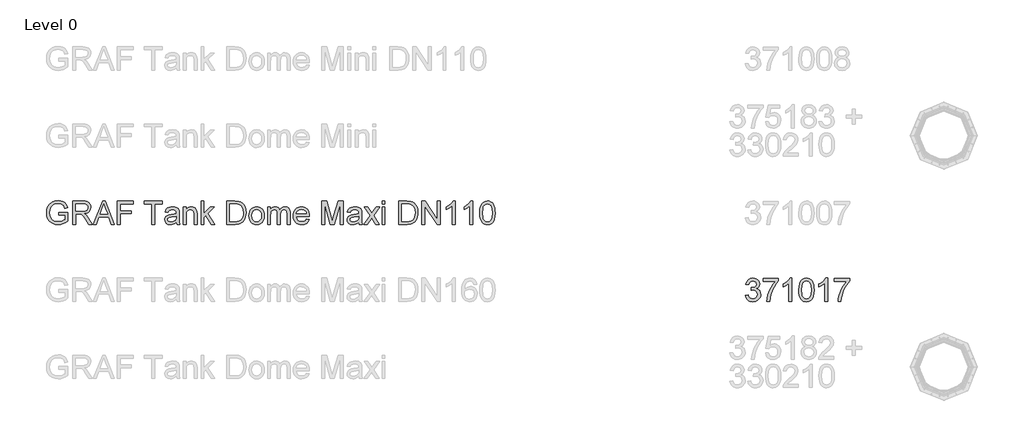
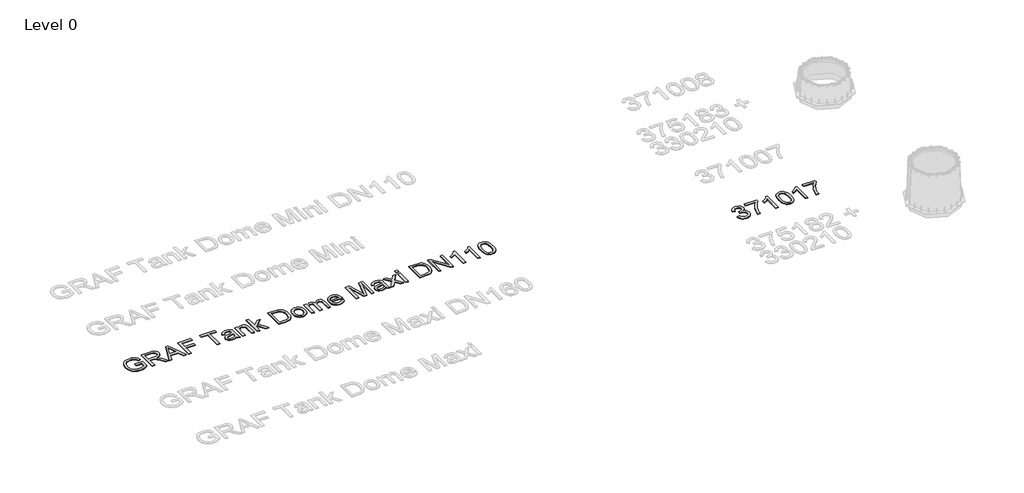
# One storey, part 3 of 19: 2 proxies.
"""IFC4 building model written with IfcOpenShell, lengths in millimetres."""

from ifc_helpers import new_model, si_unit, origin, origin_with_axes, place, context, project, spatial, polyline, outline, extrude, element, save

model = new_model("IFC4")

# Units and contexts
model_context = context("Model", 3, world=origin())
ifc_project = project(units=[si_unit("LENGTHUNIT", "METRE", prefix="MILLI")], contexts=[model_context])

# Site, building, storey
site = spatial("IfcSite", under=ifc_project)
building = spatial("IfcBuilding", under=site)
storey = spatial("IfcBuildingStorey", under=building, Name="Level 0", Elevation=0.0)

# Proxies
placement = place(None, origin())
element("IfcBuildingElementProxy", 1, Name="300mm Arial", ObjectType="300mm Arial", at=placement, inside=storey, context=model_context, shape_type="SweptSolid", body=[
    extrude(outline(polyline([(-15240.9940387, -16082.9794047), (-15240.9940387, -16045.3082884), (-15118.5629107, -16045.3082884), (-15118.5629107, -16157.9537553), (-15148.3153671, -16178.6471176), (-15179.0059225, -16193.4911561), (-15210.5610007, -16202.4306885), (-15242.9070251, -16205.4105327), (-15285.1674693, -16200.674052), (-15323.3628175, -16186.46461), (-15355.0926395, -16163.2788472), (-15377.9565055, -16131.6134045), (-15391.7796715, -16093.6295885), (-15396.3873935, -16051.4887059), (-15391.7980656, -16009.0443207), (-15378.0300819, -15969.5613856), (-15355.6536596, -15936.442809), (-15325.2390156, -15913.0914993), (-15288.1932987, -15899.2407422), (-15245.9236575, -15894.6238232), (-15214.8928112, -15897.3001647), (-15186.9889618, -15905.3291892), (-15163.4904994, -15918.1314827), (-15145.6758138, -15935.1276309), (-15132.4964413, -15957.1361712), (-15122.9039183, -15984.9756412), (-15157.6319786, -15994.7613023), (-15165.3850917, -15974.9048716), (-15174.8120678, -15959.9228773), (-15187.2832674, -15948.6289001), (-15204.169051, -15939.8365204), (-15224.3013932, -15934.1803347), (-15246.5122687, -15932.2949395), (-15272.5123287, -15934.3274875), (-15294.7415982, -15940.4251316), (-15313.1173039, -15949.8245166), (-15327.5566722, -15961.7622873), (-15346.9440533, -15990.7881767), (-15355.7732212, -16019.225455), (-15358.7162772, -16049.9436015), (-15355.175413, -16085.9684459), (-15344.5528204, -16115.6105377), (-15327.1703961, -16138.6583447), (-15303.3500369, -16154.9003348), (-15275.4737787, -16164.529646), (-15245.9236575, -16167.7394164), (-15219.831627, -16165.3205923), (-15194.3833899, -16158.0641199), (-15172.2828791, -16148.0669267), (-15156.234027, -16137.42594), (-15156.234027, -16082.9794047), (-15240.9940387, -16082.9794047)])), origin_with_axes(), (0.0, 0.0, 1.0), 10.0),
    extrude(outline(polyline([(-15057.3473467, -16200.7016432), (-15057.3473467, -15899.3327127), (-14927.4850024, -15899.3327127), (-14892.5821982, -15901.3652607), (-14867.1891434, -15907.4629048), (-14848.6294968, -15918.7200939), (-14834.2269167, -15936.2312768), (-14824.9838815, -15957.9455116), (-14821.9028698, -15981.811856), (-14827.0072325, -16011.4999331), (-14842.3203206, -16036.1112385), (-14853.9200997, -16046.1406214), (-14868.3019865, -16054.1558504), (-14905.4120827, -16064.1438466), (-14884.0013506, -16080.257078), (-14853.467145, -16119.0318402), (-14803.2144645, -16200.7016432), (-14846.9924219, -16200.7016432), (-14886.2086426, -16138.2352804), (-14914.5355562, -16096.8853441), (-14934.4379722, -16077.3508102), (-14952.3538253, -16070.1771113), (-14974.2060158, -16068.8527361), (-15019.6762304, -16068.8527361), (-15019.6762304, -16200.7016432), (-15057.3473467, -16200.7016432)]), holes=[polyline([(-15019.6762304, -16031.1816198), (-14935.3576771, -16031.1816198), (-14911.1418448, -16029.8480476), (-14892.3522719, -16025.8473309), (-14878.2072092, -16018.9127553), (-14867.9249074, -16008.7776063), (-14861.6617165, -15996.5179388), (-14859.5739861, -15983.2098076), (-14863.5563087, -15964.834102), (-14875.5032765, -15950.0268517), (-14896.058683, -15940.2595847), (-14925.8663217, -15937.003829), (-15019.6762304, -15937.003829), (-15019.6762304, -16031.1816198)])]), origin_with_axes(), (0.0, 0.0, 1.0), 10.0),
    extrude(outline(polyline([(-14791.0743586, -16200.7016432), (-14670.7769462, -15899.3327127), (-14638.6976362, -15899.3327127), (-14518.4002238, -16200.7016432), (-14558.2050557, -16200.7016432), (-14592.7123868, -16106.5238524), (-14716.835772, -16106.5238524), (-14751.2695268, -16200.7016432), (-14791.0743586, -16200.7016432)]), holes=[polyline([(-14703.003409, -16068.8527361), (-14606.4711735, -16068.8527361), (-14633.6208647, -15994.7613023), (-14654.7372912, -15937.003829), (-14673.499273, -15988.2865792), (-14703.003409, -16068.8527361)])]), origin_with_axes(), (0.0, 0.0, 1.0), 10.0),
    extrude(outline(polyline([(-14478.1539335, -16200.7016432), (-14478.1539335, -15899.3327127), (-14275.6716834, -15899.3327127), (-14275.6716834, -15937.003829), (-14440.4828172, -15937.003829), (-14440.4828172, -16026.4727303), (-14299.2161311, -16026.4727303), (-14299.2161311, -16064.1438466), (-14440.4828172, -16064.1438466), (-14440.4828172, -16200.7016432), (-14478.1539335, -16200.7016432)])), origin_with_axes(), (0.0, 0.0, 1.0), 10.0),
    extrude(outline(polyline([(-14030.8094274, -16200.7016432), (-14030.8094274, -15937.003829), (-14129.6961077, -15937.003829), (-14129.6961077, -15899.3327127), (-13894.2516308, -15899.3327127), (-13894.2516308, -15937.003829), (-13993.1383111, -15937.003829), (-13993.1383111, -16200.7016432), (-14030.8094274, -16200.7016432)])), origin_with_axes(), (0.0, 0.0, 1.0), 10.0),
    extrude(outline(polyline([(-13715.3138283, -16172.4483059), (-13733.312455, -16187.8809556), (-13751.8445105, -16197.9793164), (-13771.3330592, -16203.5527286), (-13792.2011653, -16205.4105327), (-13823.6826671, -16200.9407665), (-13846.905218, -16187.5314677), (-13861.2250247, -16167.1691993), (-13865.9982936, -16141.8405239), (-13864.1956718, -16126.2239332), (-13858.7878065, -16112.0420823), (-13850.4460822, -16099.9019765), (-13839.8418837, -16090.410621), (-13813.4647447, -16078.049786), (-13780.8703999, -16072.3844033), (-13742.353155, -16066.4247149), (-13715.5345575, -16059.434957), (-13715.3138283, -16051.0472475), (-13717.9073964, -16034.2350404), (-13725.6881006, -16023.2353687), (-13743.088919, -16015.0683884), (-13767.3323425, -16012.3460616), (-13789.7731442, -16014.1578805), (-13805.4449172, -16019.5933369), (-13816.1318891, -16029.6457125), (-13823.6182877, -16045.3082884), (-13861.289404, -16040.5993989), (-13854.7503016, -16019.9980071), (-13844.9922316, -16003.8111994), (-13831.1046863, -15991.4319702), (-13812.1771577, -15982.2533144), (-13789.0281831, -15976.5695376), (-13762.4763001, -15974.6749453), (-13737.009669, -15976.3488084), (-13716.8221445, -15981.3703976), (-13701.601027, -15988.9211756), (-13691.0336167, -15998.1826048), (-13684.0254646, -16009.6329319), (-13679.482122, -16023.7504035), (-13677.642712, -16056.7126303), (-13677.642712, -16103.5807964), (-13675.7297257, -16169.0270034), (-13668.224933, -16200.7016432), (-13705.8960493, -16200.7016432), (-13715.3138283, -16172.4483059)]), holes=[polyline([(-13715.3138283, -16097.1060733), (-13776.0879339, -16108.657568), (-13808.4983377, -16114.7644091), (-13823.1768293, -16124.697223), (-13828.3271773, -16139.1917736), (-13825.522077, -16150.3937803), (-13817.1067764, -16159.5724361), (-13803.2652163, -16165.6976713), (-13784.1813378, -16167.7394164), (-13763.9478281, -16165.4861392), (-13746.0687631, -16158.7263075), (-13731.5742125, -16148.7659025), (-13721.4942459, -16136.9109052), (-13717.0244796, -16124.697223), (-13715.5345575, -16107.7746512), (-13715.3138283, -16097.1060733)])]), origin_with_axes(), (0.0, 0.0, 1.0), 10.0),
    extrude(outline(polyline([(-13625.8449271, -16200.7016432), (-13625.8449271, -15979.3838349), (-13588.1738108, -15979.3838349), (-13588.1738108, -16010.2859225), (-13575.0864088, -15994.70612), (-13559.3686506, -15983.5776896), (-13541.0205361, -15976.9006314), (-13520.0420653, -15974.6749453), (-13501.4732216, -15976.4683701), (-13484.4678764, -15981.8486442), (-13470.2860255, -15990.1443832), (-13460.1876647, -16000.6842024), (-13448.8936874, -16028.3857166), (-13446.9071247, -16064.8060342), (-13446.9071247, -16200.7016432), (-13484.578241, -16200.7016432), (-13484.578241, -16069.8828057), (-13488.9192485, -16036.5526969), (-13494.9249221, -16026.6290801), (-13504.2599277, -16018.9311494), (-13516.2252896, -16013.9923336), (-13530.122032, -16012.3460616), (-13552.1857546, -16016.0432757), (-13570.9937216, -16027.1349178), (-13578.5100106, -16036.1894135), (-13583.8787885, -16048.5640441), (-13588.1738108, -16083.2737103), (-13588.1738108, -16200.7016432), (-13625.8449271, -16200.7016432)])), origin_with_axes(), (0.0, 0.0, 1.0), 10.0),
    extrude(outline(polyline([(-13395.1093397, -16200.7016432), (-13395.1093397, -15899.3327127), (-13357.4382234, -15899.3327127), (-13357.4382234, -16061.274367), (-13272.9725173, -15979.3838349), (-13220.8804268, -15979.3838349), (-13306.3762025, -16062.3044366), (-13216.1715373, -16200.7016432), (-13260.1702239, -16200.7016432), (-13333.3787409, -16088.4976346), (-13357.4382234, -16111.8213531), (-13357.4382234, -16200.7016432), (-13395.1093397, -16200.7016432)])), origin_with_axes(), (0.0, 0.0, 1.0), 10.0),
    extrude(outline(polyline([(-13060.7781825, -16200.7016432), (-13060.7781825, -15899.3327127), (-12956.8147307, -15899.3327127), (-12903.030383, -15903.6737203), (-12879.0076887, -15912.0430357), (-12858.7373908, -15925.2316052), (-12837.8968757, -15948.1874417), (-12823.0528372, -15976.7350845), (-12814.1684871, -16010.3227107), (-12811.207037, -16048.3984972), (-12813.2119939, -16080.7445216), (-12819.2268645, -16109.209391), (-12828.3871262, -16133.4436174), (-12839.8282562, -16153.097713), (-12852.9984316, -16168.6131361), (-12867.3458295, -16180.4313452), (-12883.8177458, -16189.1961338), (-12903.3614768, -16195.5512952), (-12951.8115355, -16200.7016432), (-13060.7781825, -16200.7016432)]), holes=[polyline([(-13023.1070662, -16163.0305269), (-12956.4468487, -16163.0305269), (-12928.8740931, -16161.6693635), (-12907.9600017, -16157.5858733), (-12892.1778641, -16151.0191797), (-12880.0009701, -16142.2084059), (-12866.9135681, -16125.9020365), (-12857.0819218, -16104.794807), (-12850.9290954, -16078.794747), (-12848.8781533, -16047.809886), (-12852.8972641, -16006.7542553), (-12864.9545965, -15976.4407789), (-12882.7692821, -15955.618658), (-12904.0604526, -15943.0370938), (-12925.7287021, -15938.5121452), (-12957.4769183, -15937.003829), (-13023.1070662, -15937.003829), (-13023.1070662, -16163.0305269)])]), origin_with_axes(), (0.0, 0.0, 1.0), 10.0),
    extrude(outline(polyline([(-12773.5359207, -16090.042739), (-12771.4987741, -16061.3801331), (-12765.3873345, -16036.6814556), (-12755.2016018, -16015.9467067), (-12740.9415759, -15999.1758862), (-12726.5849811, -15988.4567246), (-12710.7384641, -15980.8001806), (-12693.4020251, -15976.2062541), (-12674.575664, -15974.6749453), (-12653.7926305, -15976.5396472), (-12635.0007584, -15982.1337528), (-12618.2000475, -15991.4572621), (-12603.3904979, -16004.5101751), (-12591.3032751, -16020.8510335), (-12582.6695445, -16040.0383788), (-12577.4893062, -16062.0722111), (-12575.7625601, -16086.9525303), (-12578.8159806, -16125.0099227), (-12587.9762423, -16153.9806298), (-12602.9766307, -16175.6764705), (-12623.5504313, -16191.9092635), (-12647.9869928, -16202.0352154), (-12674.575664, -16205.4105327), (-12695.6622001, -16203.5527286), (-12714.6288162, -16197.9793164), (-12731.4755123, -16188.690296), (-12746.2022884, -16175.6856675), (-12758.1607526, -16159.18616), (-12766.7025126, -16139.4125028), (-12771.8275687, -16116.3646958), (-12773.5359207, -16090.042739)]), holes=[polyline([(-12735.8648044, -16089.9691626), (-12731.5054027, -16124.0626265), (-12718.4271978, -16148.3520353), (-12698.7455111, -16162.8925711), (-12674.575664, -16167.7394164), (-12650.5161815, -16162.86498), (-12630.871283, -16148.2416707), (-12617.793078, -16123.6303652), (-12613.4336764, -16088.7919402), (-12617.8206692, -16055.6917577), (-12630.9816476, -16031.7334428), (-12650.6541372, -16017.1929069), (-12674.575664, -16012.3460616), (-12698.7455111, -16017.1745128), (-12718.4271978, -16031.6598664), (-12731.5054027, -16055.8940928), (-12735.8648044, -16089.9691626)])]), origin_with_axes(), (0.0, 0.0, 1.0), 10.0),
    extrude(outline(polyline([(-12533.3825542, -16200.7016432), (-12533.3825542, -15979.3838349), (-12495.7114379, -15979.3838349), (-12495.7114379, -16015.8041524), (-12484.3806725, -15999.0747187), (-12469.8125455, -15985.9689226), (-12452.5036976, -15977.4984396), (-12432.9507696, -15974.6749453), (-12411.9998899, -15977.5536219), (-12395.2060768, -15986.1896518), (-12382.6613008, -16000.0128178), (-12374.4575323, -16018.4529028), (-12360.7263368, -15999.3000464), (-12345.0637609, -15985.6194347), (-12327.4698045, -15977.4110677), (-12307.9444676, -15974.6749453), (-12279.626751, -15979.227485), (-12258.6850684, -15992.8851041), (-12245.7448193, -16016.0156845), (-12241.4314029, -16048.9871084), (-12241.4314029, -16200.7016432), (-12279.1025192, -16200.7016432), (-12279.1025192, -16065.1739161), (-12282.5973981, -16033.7200056), (-12287.5086228, -16025.0471875), (-12295.2525388, -16018.2321736), (-12305.2129438, -16013.8175896), (-12316.7736355, -16012.3460616), (-12337.1818892, -16016.1168521), (-12353.8193524, -16027.4292234), (-12364.8834034, -16047.0557279), (-12368.5714204, -16075.7689176), (-12368.5714204, -16200.7016432), (-12406.2425367, -16200.7016432), (-12406.2425367, -16060.9800614), (-12408.4222375, -16039.6796939), (-12414.96134, -16024.4861675), (-12426.4668494, -16015.3810881), (-12443.545771, -16012.3460616), (-12458.0587157, -16014.3694126), (-12471.4312262, -16020.4394655), (-12482.4676861, -16030.4090676), (-12489.9724788, -16044.131066), (-12494.2766981, -16063.1689593), (-12495.7114379, -16089.0862458), (-12495.7114379, -16200.7016432), (-12533.3825542, -16200.7016432)])), origin_with_axes(), (0.0, 0.0, 1.0), 10.0),
    extrude(outline(polyline([(-12029.972832, -16134.7771896), (-11993.0374797, -16139.4860792), (-12006.3456109, -16167.3163521), (-12027.5815991, -16188.1200789), (-12056.2671976, -16201.0879193), (-12091.92416, -16205.4105327), (-12115.2984623, -16203.5458308), (-12136.1251817, -16197.9517253), (-12154.4043184, -16188.6282159), (-12170.1358722, -16175.5753029), (-12182.7864143, -16159.1562696), (-12191.8225158, -16139.7343995), (-12197.2441767, -16117.3096927), (-12199.051397, -16091.882149), (-12197.2257826, -16065.5923819), (-12191.7489394, -16042.4204147), (-12182.6208674, -16022.3662475), (-12169.8415666, -16005.4298801), (-12154.1513995, -15991.9745962), (-12136.2907286, -15982.363679), (-12116.259554, -15976.5971288), (-12094.0578756, -15974.6749453), (-12072.5712678, -15976.5925302), (-12053.1402007, -15982.3452849), (-12035.7646742, -15991.9332094), (-12020.4446884, -16005.3563037), (-12007.9389998, -16022.2558829), (-11999.0063651, -16042.2732619), (-11993.6467843, -16065.4084409), (-11991.8602573, -16091.6614198), (-11992.0809865, -16101.8149629), (-12161.3802807, -16101.8149629), (-12154.8595723, -16130.0131178), (-12139.7120312, -16150.7432682), (-12117.8506436, -16163.4903794), (-12091.188396, -16167.7394164), (-12071.1388273, -16165.7712477), (-12054.2530437, -16159.8667417), (-12040.5310453, -16149.6580163), (-12029.972832, -16134.7771896)]), holes=[polyline([(-12161.3802807, -16064.1438466), (-12029.5313736, -16064.1438466), (-12034.6265393, -16044.2414306), (-12044.6145354, -16030.0043974), (-12066.5770906, -16016.7606456), (-12094.2050284, -16012.3460616), (-12119.5980831, -16015.8685317), (-12140.594948, -16026.4359421), (-12155.1906661, -16042.9078584), (-12161.3802807, -16064.1438466)])]), origin_with_axes(), (0.0, 0.0, 1.0), 10.0),
    extrude(outline(polyline([(-11831.758013, -16200.7016432), (-11831.758013, -15899.3327127), (-11766.9372055, -15899.3327127), (-11705.2801831, -16111.7477767), (-11692.8457717, -16156.1143454), (-11679.3812906, -16108.0689568), (-11618.7543378, -15899.3327127), (-11553.9335303, -15899.3327127), (-11553.9335303, -16200.7016432), (-11591.6046466, -16200.7016432), (-11591.6046466, -15937.003829), (-11667.3147612, -16200.7016432), (-11718.3767821, -16200.7016432), (-11794.0868967, -15937.003829), (-11794.0868967, -16200.7016432), (-11831.758013, -16200.7016432)])), origin_with_axes(), (0.0, 0.0, 1.0), 10.0),
    extrude(outline(polyline([(-11351.4512801, -16172.4483059), (-11369.4499067, -16187.8809556), (-11387.9819623, -16197.9793164), (-11407.4705109, -16203.5527286), (-11428.3386171, -16205.4105327), (-11459.8201189, -16200.9407665), (-11483.0426698, -16187.5314677), (-11497.3624765, -16167.1691993), (-11502.1357454, -16141.8405239), (-11500.3331236, -16126.2239332), (-11494.9252582, -16112.0420823), (-11486.583534, -16099.9019765), (-11475.9793355, -16090.410621), (-11449.6021964, -16078.049786), (-11417.0078517, -16072.3844033), (-11378.4906068, -16066.4247149), (-11351.6720093, -16059.434957), (-11351.4512801, -16051.0472475), (-11354.0448482, -16034.2350404), (-11361.8255524, -16023.2353687), (-11379.2263708, -16015.0683884), (-11403.4697942, -16012.3460616), (-11425.910596, -16014.1578805), (-11441.5823689, -16019.5933369), (-11452.2693409, -16029.6457125), (-11459.7557395, -16045.3082884), (-11497.4268558, -16040.5993989), (-11490.8877534, -16019.9980071), (-11481.1296834, -16003.8111994), (-11467.2421381, -15991.4319702), (-11448.3146095, -15982.2533144), (-11425.1656349, -15976.5695376), (-11398.6137519, -15974.6749453), (-11373.1471208, -15976.3488084), (-11352.9595963, -15981.3703976), (-11337.7384788, -15988.9211756), (-11327.1710684, -15998.1826048), (-11320.1629164, -16009.6329319), (-11315.6195738, -16023.7504035), (-11313.7801638, -16056.7126303), (-11313.7801638, -16103.5807964), (-11311.8671774, -16169.0270034), (-11304.3623847, -16200.7016432), (-11342.0335011, -16200.7016432), (-11351.4512801, -16172.4483059)]), holes=[polyline([(-11351.4512801, -16097.1060733), (-11412.2253857, -16108.657568), (-11444.6357895, -16114.7644091), (-11459.3142811, -16124.697223), (-11464.464629, -16139.1917736), (-11461.6595288, -16150.3937803), (-11453.2442282, -16159.5724361), (-11439.4026681, -16165.6976713), (-11420.3187896, -16167.7394164), (-11400.0852799, -16165.4861392), (-11382.2062149, -16158.7263075), (-11367.7116643, -16148.7659025), (-11357.6316976, -16136.9109052), (-11353.1619314, -16124.697223), (-11351.6720093, -16107.7746512), (-11351.4512801, -16097.1060733)])]), origin_with_axes(), (0.0, 0.0, 1.0), 10.0),
    extrude(outline(polyline([(-11285.5268266, -16200.7016432), (-11205.0342461, -16089.4541278), (-11280.8179371, -15979.3838349), (-11235.4948753, -15979.3838349), (-11198.9274049, -16032.3588422), (-11181.8576804, -16057.3748179), (-11167.0688241, -16036.9205789), (-11125.4245823, -15979.3838349), (-11080.1015205, -15979.3838349), (-11159.7111842, -16089.4541278), (-11083.0445764, -16200.7016432), (-11128.3676383, -16200.7016432), (-11174.5000405, -16133.8206964), (-11182.9613263, -16121.6070142), (-11240.2037648, -16200.7016432), (-11285.5268266, -16200.7016432)])), origin_with_axes(), (0.0, 0.0, 1.0), 10.0),
    extrude(outline(polyline([(-11050.0823497, -15937.003829), (-11050.0823497, -15899.3327127), (-11012.4112334, -15899.3327127), (-11012.4112334, -15937.003829), (-11050.0823497, -15937.003829)])), origin_with_axes(), (0.0, 0.0, 1.0), 10.0),
    extrude(outline(polyline([(-11050.0823497, -16200.7016432), (-11050.0823497, -15979.3838349), (-11012.4112334, -15979.3838349), (-11012.4112334, -16200.7016432), (-11050.0823497, -16200.7016432)])), origin_with_axes(), (0.0, 0.0, 1.0), 10.0),
    extrude(outline(polyline([(-10833.4734309, -16200.7016432), (-10833.4734309, -15899.3327127), (-10729.5099791, -15899.3327127), (-10675.7256314, -15903.6737203), (-10651.7029371, -15912.0430357), (-10631.4326392, -15925.2316052), (-10610.5921241, -15948.1874417), (-10595.7480856, -15976.7350845), (-10586.8637355, -16010.3227107), (-10583.9022854, -16048.3984972), (-10585.9072423, -16080.7445216), (-10591.9221129, -16109.209391), (-10601.0823746, -16133.4436174), (-10612.5235046, -16153.097713), (-10625.69368, -16168.6131361), (-10640.0410779, -16180.4313452), (-10656.5129942, -16189.1961338), (-10676.0567252, -16195.5512952), (-10724.506784, -16200.7016432), (-10833.4734309, -16200.7016432)]), holes=[polyline([(-10795.8023146, -16163.0305269), (-10729.1420971, -16163.0305269), (-10701.5693416, -16161.6693635), (-10680.6552501, -16157.5858733), (-10664.8731125, -16151.0191797), (-10652.6962185, -16142.2084059), (-10639.6088165, -16125.9020365), (-10629.7771702, -16104.794807), (-10623.6243438, -16078.794747), (-10621.5734017, -16047.809886), (-10625.5925125, -16006.7542553), (-10637.6498449, -15976.4407789), (-10655.4645305, -15955.618658), (-10676.755701, -15943.0370938), (-10698.4239505, -15938.5121452), (-10730.1721667, -15937.003829), (-10795.8023146, -15937.003829), (-10795.8023146, -16163.0305269)])]), origin_with_axes(), (0.0, 0.0, 1.0), 10.0),
    extrude(outline(polyline([(-10532.1045005, -16200.7016432), (-10532.1045005, -15899.3327127), (-10491.7846338, -15899.3327127), (-10334.3311399, -16138.0881276), (-10334.3311399, -15899.3327127), (-10296.6600236, -15899.3327127), (-10296.6600236, -16200.7016432), (-10336.9798902, -16200.7016432), (-10494.4333842, -15961.8726519), (-10494.4333842, -16200.7016432), (-10532.1045005, -16200.7016432)])), origin_with_axes(), (0.0, 0.0, 1.0), 10.0),
    extrude(outline(polyline([(-10103.5955525, -16200.7016432), (-10141.2666688, -16200.7016432), (-10141.2666688, -15965.8457775), (-10176.9512223, -15991.2664233), (-10216.6089014, -16010.2859225), (-10216.6089014, -15974.6749453), (-10187.0219919, -15958.580108), (-10161.3898139, -15939.4318502), (-10141.1838953, -15919.0695818), (-10127.8757642, -15899.3327127), (-10103.5955525, -15899.3327127), (-10103.5955525, -16200.7016432)])), origin_with_axes(), (0.0, 0.0, 1.0), 10.0),
    extrude(outline(polyline([(-9872.8599651, -16200.7016432), (-9910.5310814, -16200.7016432), (-9910.5310814, -15965.8457775), (-9946.215635, -15991.2664233), (-9985.873314, -16010.2859225), (-9985.873314, -15974.6749453), (-9956.2864046, -15958.580108), (-9930.6542266, -15939.4318502), (-9910.448308, -15919.0695818), (-9897.1401768, -15899.3327127), (-9872.8599651, -15899.3327127), (-9872.8599651, -16200.7016432)])), origin_with_axes(), (0.0, 0.0, 1.0), 10.0),
    extrude(outline(polyline([(-9783.3910639, -16052.4451991), (-9780.6227519, -16004.2066725), (-9772.3178158, -15965.7354129), (-9758.5590292, -15936.442809), (-9739.4291655, -15915.7402497), (-9714.7902688, -15903.434597), (-9684.5043836, -15899.3327127), (-9661.2910297, -15901.7607339), (-9640.505697, -15909.0447974), (-9623.1232727, -15920.8997947), (-9610.1186442, -15937.0406172), (-9600.2961949, -15957.3293093), (-9592.4603084, -15981.627915), (-9587.3283546, -16012.4840174), (-9585.6177033, -16052.4451991), (-9588.3584241, -16100.4078142), (-9596.5805867, -16138.7871034), (-9610.2565999, -16168.1072984), (-9629.3588725, -16188.8926311), (-9654.0529514, -16201.2810573), (-9684.5043836, -16205.4105327), (-9705.2529281, -16203.617108), (-9723.6470279, -16198.2368338), (-9739.6866829, -16189.2697102), (-9753.3718931, -16176.7157371), (-9766.5052803, -16154.0220165), (-9775.8862712, -16125.7456867), (-9781.5148657, -16091.8867475), (-9783.3910639, -16052.4451991)]), holes=[polyline([(-9745.7199476, -16052.3716227), (-9741.3053636, -16111.6282151), (-9735.7871337, -16131.8962138), (-9728.0616118, -16145.9240141), (-9708.3431369, -16162.2855658), (-9684.5043836, -16167.7394164), (-9660.6656303, -16162.2671717), (-9640.9471554, -16145.8504377), (-9633.2216335, -16131.7996447), (-9627.7034035, -16111.5362446), (-9623.2888196, -16052.3716227), (-9627.5562507, -15994.4486026), (-9632.8905397, -15974.2472825), (-9640.3585442, -15959.8860891), (-9660.0402309, -15942.7243941), (-9684.945842, -15937.003829), (-9708.5270779, -15942.0438124), (-9727.4730006, -15957.1637624), (-9735.4560399, -15972.7987472), (-9741.1582108, -15993.8783855), (-9745.7199476, -16052.3716227)])]), origin_with_axes(), (0.0, 0.0, 1.0), 10.0),
])
element("IfcBuildingElementProxy", 2, Name="300mm Arial", ObjectType="300mm Arial", at=placement, inside=storey, context=model_context, shape_type="SweptSolid", body=[
    extrude(outline(polyline([(-6342.0538732, -17120.650521), (-6304.3827568, -17115.9416315), (-6295.9490621, -17139.6148379), (-6283.5974241, -17155.5993106), (-6266.7208376, -17164.7043899), (-6244.7122972, -17167.7394164), (-6218.8869812, -17163.5639558), (-6198.947777, -17151.0375738), (-6186.2006659, -17132.3491685), (-6181.9516289, -17109.6876376), (-6186.1638777, -17088.1757379), (-6198.8006242, -17070.7289343), (-6217.930488, -17059.1682426), (-6241.6220885, -17055.3146787), (-6268.0360157, -17059.434957), (-6263.842161, -17021.7638407), (-6257.8088963, -17022.2052991), (-6235.2393359, -17019.5013664), (-6215.0610084, -17011.3895685), (-6200.8239752, -16997.66757), (-6196.0782975, -16978.1330361), (-6199.5179941, -16961.8634549), (-6209.8370841, -16948.6656883), (-6225.5824335, -16939.9192938), (-6245.3009084, -16937.003829), (-6265.0561716, -16939.946885), (-6281.2061912, -16948.7760529), (-6292.9968091, -16963.4913327), (-6299.6738673, -16984.0927244), (-6337.3449836, -16979.3838349), (-6326.2533415, -16945.5570854), (-6306.5164724, -16920.3019864), (-6279.513934, -16904.5750312), (-6246.6252836, -16899.3327127), (-6222.9428802, -16901.9170837), (-6201.1918572, -16909.6701968), (-6182.8529397, -16921.9022731), (-6169.4068528, -16937.923534), (-6161.1570991, -16956.3820131), (-6158.4071812, -16975.9257441), (-6161.0191433, -16994.1359029), (-6168.8550298, -17010.6538045), (-6181.8044761, -17024.7252908), (-6199.7571174, -17035.5962037), (-6176.1758815, -17045.1243474), (-6158.7014868, -17061.3479434), (-6147.8857561, -17083.3840749), (-6144.2805125, -17110.3498252), (-6146.0831343, -17129.4612948), (-6151.4909997, -17147.0644483), (-6160.5041085, -17163.1592856), (-6173.122461, -17177.7458067), (-6188.4953298, -17189.8491243), (-6205.771988, -17198.4943512), (-6224.9524356, -17203.6814873), (-6246.0366724, -17205.4105327), (-6265.0929598, -17203.9344062), (-6282.4569899, -17199.5060267), (-6298.1287629, -17192.1253942), (-6312.1082787, -17181.7925086), (-6323.8299188, -17169.1143754), (-6332.7280646, -17154.6979997), (-6338.802716, -17138.5433816), (-6342.0538732, -17120.650521)])), origin_with_axes(), (0.0, 0.0, 1.0), 10.0),
    extrude(outline(polyline([(-6111.3182858, -16941.7127186), (-6111.3182858, -16904.0416023), (-5913.5449252, -16904.0416023), (-5913.5449252, -16934.5022315), (-5941.7338831, -16970.1775879), (-5969.6469294, -17015.546635), (-5994.267432, -17066.4707002), (-6012.5787583, -17118.811111), (-6021.555079, -17157.9721494), (-6026.5582741, -17200.7016432), (-6064.2293904, -17200.7016432), (-6060.1550973, -17161.8716986), (-6049.2565932, -17115.7209023), (-6031.8281837, -17066.801794), (-6008.1641743, -17019.6669133), (-5980.5362365, -16977.0569813), (-5951.2160415, -16941.7127186), (-6111.3182858, -16941.7127186)])), origin_with_axes(), (0.0, 0.0, 1.0), 10.0),
    extrude(outline(polyline([(-5739.3160123, -17200.7016432), (-5776.9871286, -17200.7016432), (-5776.9871286, -16965.8457775), (-5812.6716821, -16991.2664233), (-5852.3293612, -17010.2859225), (-5852.3293612, -16974.6749453), (-5822.7424517, -16958.580108), (-5797.1102737, -16939.4318502), (-5776.9043551, -16919.0695818), (-5763.5962239, -16899.3327127), (-5739.3160123, -16899.3327127), (-5739.3160123, -17200.7016432)])), origin_with_axes(), (0.0, 0.0, 1.0), 10.0),
    extrude(outline(polyline([(-5649.847111, -17052.4451991), (-5647.078799, -17004.2066725), (-5638.773863, -16965.7354129), (-5625.0150764, -16936.442809), (-5605.8852126, -16915.7402497), (-5581.246316, -16903.434597), (-5550.9604307, -16899.3327127), (-5527.7470768, -16901.7607339), (-5506.9617441, -16909.0447974), (-5489.5793198, -16920.8997947), (-5476.5746913, -16937.0406172), (-5466.752242, -16957.3293093), (-5458.9163555, -16981.627915), (-5453.7844017, -17012.4840174), (-5452.0737504, -17052.4451991), (-5454.8144713, -17100.4078142), (-5463.0366339, -17138.7871034), (-5476.7126471, -17168.1072984), (-5495.8149197, -17188.8926311), (-5520.5089986, -17201.2810573), (-5550.9604307, -17205.4105327), (-5571.7089753, -17203.617108), (-5590.103075, -17198.2368338), (-5606.14273, -17189.2697102), (-5619.8279402, -17176.7157371), (-5632.9613275, -17154.0220165), (-5642.3423183, -17125.7456867), (-5647.9709129, -17091.8867475), (-5649.847111, -17052.4451991)]), holes=[polyline([(-5612.1759947, -17052.3716227), (-5607.7614108, -17111.6282151), (-5602.2431809, -17131.8962138), (-5594.517659, -17145.9240141), (-5574.799184, -17162.2855658), (-5550.9604307, -17167.7394164), (-5527.1216774, -17162.2671717), (-5507.4032025, -17145.8504377), (-5499.6776806, -17131.7996447), (-5494.1594507, -17111.5362446), (-5489.7448667, -17052.3716227), (-5494.0122979, -16994.4486026), (-5499.3465868, -16974.2472825), (-5506.8145913, -16959.8860891), (-5526.496278, -16942.7243941), (-5551.4018891, -16937.003829), (-5574.983125, -16942.0438124), (-5593.9290478, -16957.1637624), (-5601.9120871, -16972.7987472), (-5607.614258, -16993.8783855), (-5612.1759947, -17052.3716227)])]), origin_with_axes(), (0.0, 0.0, 1.0), 10.0),
    extrude(outline(polyline([(-5277.8448375, -17200.7016432), (-5315.5159538, -17200.7016432), (-5315.5159538, -16965.8457775), (-5351.2005073, -16991.2664233), (-5390.8581864, -17010.2859225), (-5390.8581864, -16974.6749453), (-5361.271277, -16958.580108), (-5335.639099, -16939.4318502), (-5315.4331804, -16919.0695818), (-5302.1250492, -16899.3327127), (-5277.8448375, -16899.3327127), (-5277.8448375, -17200.7016432)])), origin_with_axes(), (0.0, 0.0, 1.0), 10.0),
    extrude(outline(polyline([(-5188.3759363, -16941.7127186), (-5188.3759363, -16904.0416023), (-4990.6025757, -16904.0416023), (-4990.6025757, -16934.5022315), (-5018.7915336, -16970.1775879), (-5046.7045799, -17015.546635), (-5071.3250825, -17066.4707002), (-5089.6364088, -17118.811111), (-5098.6127295, -17157.9721494), (-5103.6159246, -17200.7016432), (-5141.2870409, -17200.7016432), (-5137.2127478, -17161.8716986), (-5126.3142437, -17115.7209023), (-5108.8858342, -17066.801794), (-5085.2218248, -17019.6669133), (-5057.593887, -16977.0569813), (-5028.273692, -16941.7127186), (-5188.3759363, -16941.7127186)])), origin_with_axes(), (0.0, 0.0, 1.0), 10.0),
])

save(model, "model.ifc")
